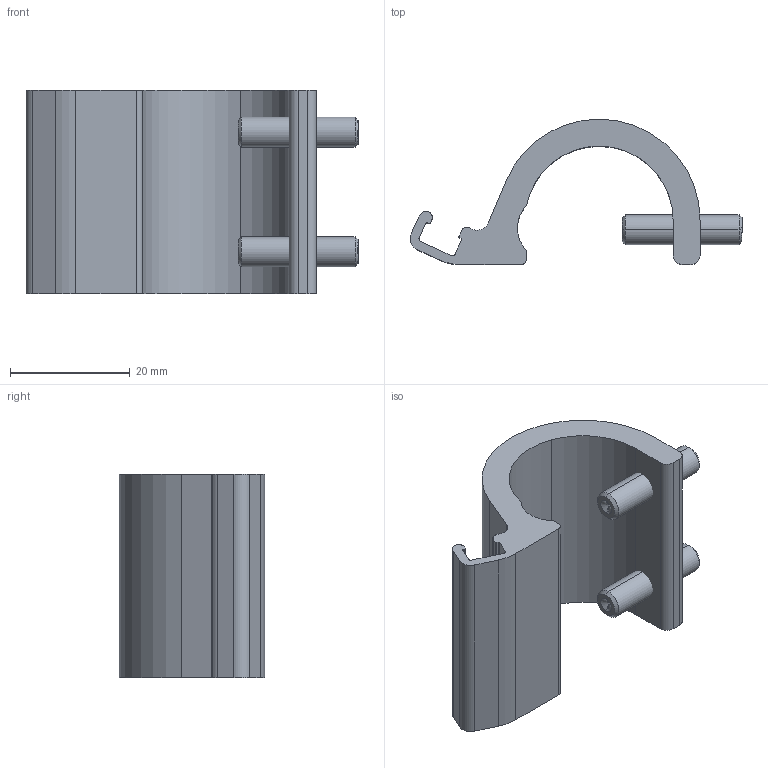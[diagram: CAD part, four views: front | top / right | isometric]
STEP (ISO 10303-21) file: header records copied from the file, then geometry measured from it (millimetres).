
FILE_DESCRIPTION (( 'STEP AP214' ), '1' );
FILE_NAME ('Halter DZ T- Nut D125 ... 320-+-PD48956_ .STEP', '2019-04-15T11:40:37', ( '' ), ( '' ), 'SwSTEP 2.0', 'SolidWorks 2014', '' );
FILE_SCHEMA (( 'AUTOMOTIVE_DESIGN' ));
Length unit declared in the file: millimetre
Products named in the file (3): Halter Zugstange D125 ... 320  V4-+-PD48956_ _PDB_PD49016; GEWINDESTIFT_M5_DIN916-+-M5-DIN916_PDB_3472; Halter DZ T- Nut D125 ... 320-+-PD48956_ 
Assembly tree (3 placements, depth 2):
  Halter DZ T- Nut D125 ... 320-+-PD48956_ 
    Halter Zugstange D125 ... 320  V4-+-PD48956_ _PDB_PD49016
    GEWINDESTIFT_M5_DIN916-+-M5-DIN916_PDB_3472  x2
Bounding box: 55.45 x 24.27 x 34 mm (x, y, z)
Volume: 11904.9 mm3; surface area: 7183.6 mm2
Topology: 3 solids, 3 shells, 90 faces, 238 edges, 150 vertices
Faces by surface type: plane 48, cylinder 30, cone 12
Entity records: 2360 total; most frequent: CARTESIAN_POINT 436, DIRECTION 386, ORIENTED_EDGE 372, EDGE_CURVE 186, AXIS2_PLACEMENT_3D 135, VERTEX_POINT 121, LINE 116, VECTOR 116
